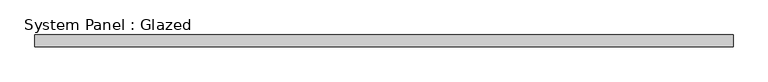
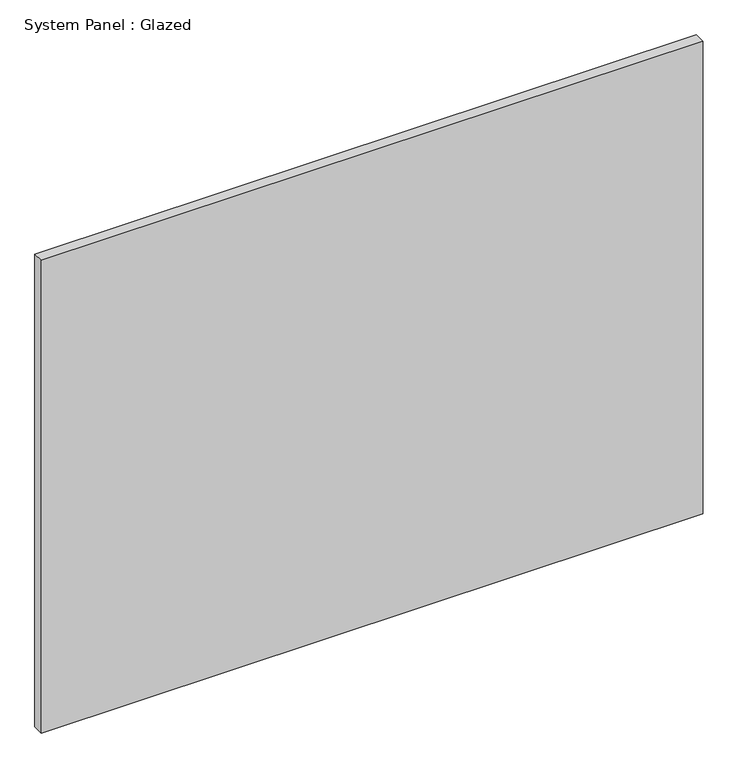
"""IFC4 building model written with IfcOpenShell, lengths in millimetres: plate geometry, System Panel : Glazed."""

from ifc_helpers import new_model, si_unit, origin, origin_with_axes, place, context, project, spatial, polyline, outline, extrude, source, transform, mapped, element, save


def system_panel_glazed_03078dcc(model_context):
    return source(origin(), model_context, "Body", "SweptSolid", [
        extrude(outline(polyline([(745.0, -12.5), (-745.0, -12.5), (-745.0, 12.5), (745.0, 12.5), (745.0, -12.5)])), origin_with_axes(), (0.0, 0.0, 1.0), 1125.0),
    ])


if __name__ == "__main__":
    model = new_model("IFC4")
    model_context = context("Model", 3, world=origin())
    ifc_project = project(units=[si_unit("LENGTHUNIT", "METRE", prefix="MILLI")], contexts=[model_context])
    site = spatial("IfcSite", under=ifc_project)
    building = spatial("IfcBuilding", under=site)
    placement = place(None, origin())
    system_panel_glazed_shape = system_panel_glazed_03078dcc(model_context)
    element("IfcPlate", 1, ObjectType="System Panel : Glazed", at=placement, inside=building, context=model_context, shape_type="MappedRepresentation", body=[
        mapped(system_panel_glazed_shape, transform((0.0, 0.0, 0.0), x_axis=(1.0, 0.0, 0.0), y_axis=(0.0, 1.0, 0.0), z_axis=(0.0, 0.0, 1.0))),
    ])
    save(model, "model.ifc")
